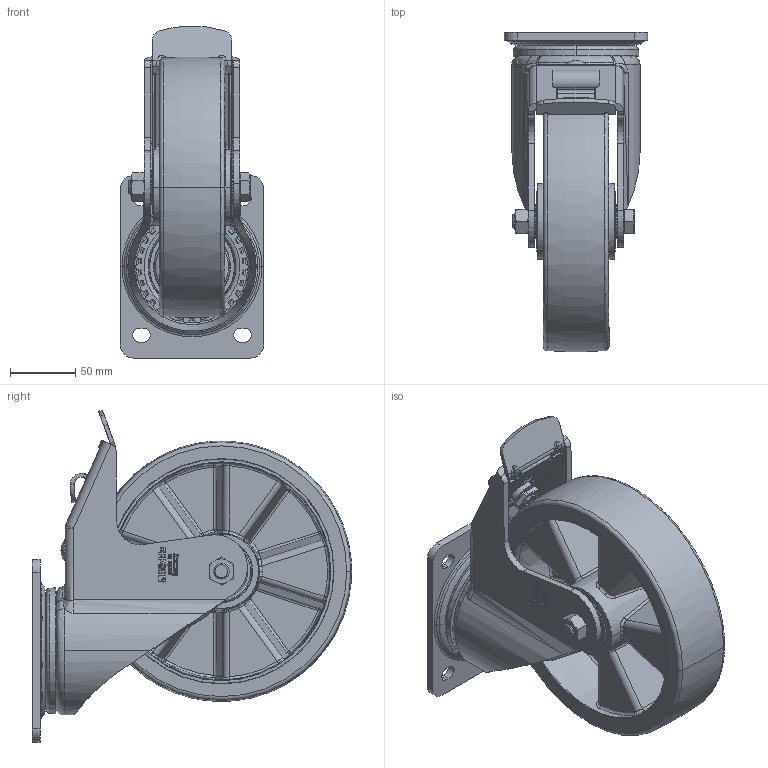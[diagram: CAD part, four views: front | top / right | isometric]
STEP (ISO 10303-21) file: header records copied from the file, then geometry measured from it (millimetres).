
FILE_DESCRIPTION (( 'STEP AP214' ), '1' );
FILE_NAME ('LH-ALTH_200K-FI_473934-214.step', '2021-12-30T08:31:01', ( '' ), ( '' ), 'SwSTEP 2.0', 'SolidWorks 2018', '' );
FILE_SCHEMA (( 'AUTOMOTIVE_DESIGN' ));
Length unit declared in the file: millimetre
Products named in the file (5): GH-LH-200x60-03-FI_20x60_G16_3D; LH-ALTH_200K-FI_473934-214; GH-LH_175-250_GH-LH-200x60-03-FI_20x60; ALTH_200_20K_G16_3D; ALTH_3D_G16_ALTH_200_20K_265736
Assembly tree (4 placements, depth 3):
  LH-ALTH_200K-FI_473934-214
    GH-LH_175-250_GH-LH-200x60-03-FI_20x60
      GH-LH-200x60-03-FI_20x60_G16_3D
    ALTH_3D_G16_ALTH_200_20K_265736
      ALTH_200_20K_G16_3D
Bounding box: 110 x 244.91 x 254.72 mm (x, y, z)
Volume: 1160821 mm3; surface area: 329905.4 mm2
Topology: 2 solids, 8 shells, 3612 faces, 9663 edges, 6259 vertices
Faces by surface type: plane 1440, bspline 1185, cylinder 599, torus 219, cone 123, sphere 46
Entity records: 154363 total; most frequent: CARTESIAN_POINT 65596, ORIENTED_EDGE 19306, DIRECTION 13095, EDGE_CURVE 9653, VERTEX_POINT 6259, VECTOR 4981, LINE 4981, AXIS2_PLACEMENT_3D 4057
